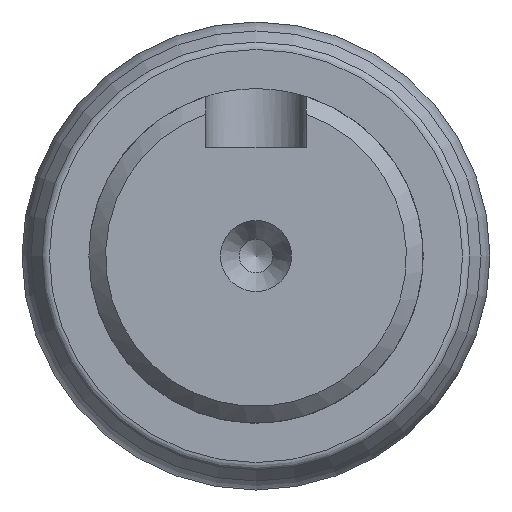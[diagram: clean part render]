
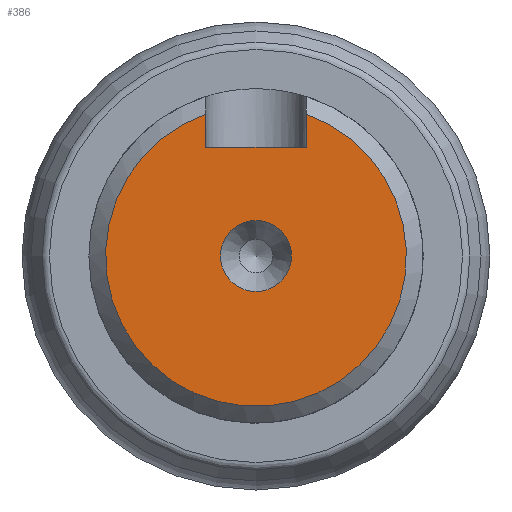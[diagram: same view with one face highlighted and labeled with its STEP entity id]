
A CAD part, left-side view. The second image highlights one B-rep face of the part: STEP entity #386.
In plain terms, the highlighted planar face has unit normal (-1, 0, 0).
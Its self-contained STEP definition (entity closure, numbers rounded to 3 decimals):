
#18=LINE($,#644,#27);
#20=LINE($,#649,#29);
#23=LINE($,#657,#32);
#27=VECTOR($,#499,1.985);
#29=VECTOR($,#503,1.985);
#32=VECTOR($,#508,6.);
#43=PLANE($,#446);
#81=FACE_BOUND($,#160,.T.);
#82=FACE_BOUND($,#161,.T.);
#160=EDGE_LOOP($,(#339));
#161=EDGE_LOOP($,(#340,#341,#342,#343));
#167=CIRCLE($,#395,2.125);
#191=CIRCLE($,#445,9.);
#194=VERTEX_POINT($,#582);
#209=VERTEX_POINT($,#639);
#210=VERTEX_POINT($,#643);
#211=VERTEX_POINT($,#647);
#212=VERTEX_POINT($,#648);
#229=EDGE_CURVE($,#194,#194,#167,.T.);
#245=EDGE_CURVE($,#210,#209,#18,.T.);
#247=EDGE_CURVE($,#211,#212,#20,.T.);
#251=EDGE_CURVE($,#212,#210,#23,.T.);
#266=EDGE_CURVE($,#211,#209,#191,.T.);
#339=ORIENTED_EDGE($,*,*,#229,.T.);
#340=ORIENTED_EDGE($,*,*,#245,.T.);
#341=ORIENTED_EDGE($,*,*,#266,.F.);
#342=ORIENTED_EDGE($,*,*,#247,.T.);
#343=ORIENTED_EDGE($,*,*,#251,.T.);
#386=ADVANCED_FACE($,(#81,#82),#43,.T.);
#395=AXIS2_PLACEMENT_3D($,#583,#458,#459);
#445=AXIS2_PLACEMENT_3D($,#700,#567,#568);
#446=AXIS2_PLACEMENT_3D($,#701,#569,#570);
#458=DIRECTION('center_axis',(1.,0.,0.));
#459=DIRECTION('ref_axis',(0.,0.,1.));
#499=DIRECTION($,(0.,0.,1.));
#503=DIRECTION($,(0.,0.,-1.));
#508=DIRECTION($,(0.,1.,0.));
#567=DIRECTION('center_axis',(1.,0.,0.));
#568=DIRECTION('ref_axis',(0.,-1.,0.));
#569=DIRECTION('center_axis',(-1.,0.,0.));
#570=DIRECTION('ref_axis',(0.,0.,1.));
#582=CARTESIAN_POINT('',(-51.,0.,2.125));
#583=CARTESIAN_POINT('Origin',(-51.,0.,0.));
#639=CARTESIAN_POINT('',(-51.,3.,8.485));
#643=CARTESIAN_POINT('',(-51.,3.,6.5));
#644=CARTESIAN_POINT($,(-51.,3.,5.));
#647=CARTESIAN_POINT('',(-51.,-3.,8.485));
#648=CARTESIAN_POINT('',(-51.,-3.,6.5));
#649=CARTESIAN_POINT($,(-51.,-3.,5.));
#657=CARTESIAN_POINT($,(-51.,5.,6.5));
#700=CARTESIAN_POINT('Origin',(-51.,0.,0.));
#701=CARTESIAN_POINT('Origin',(-51.,10.,0.));
